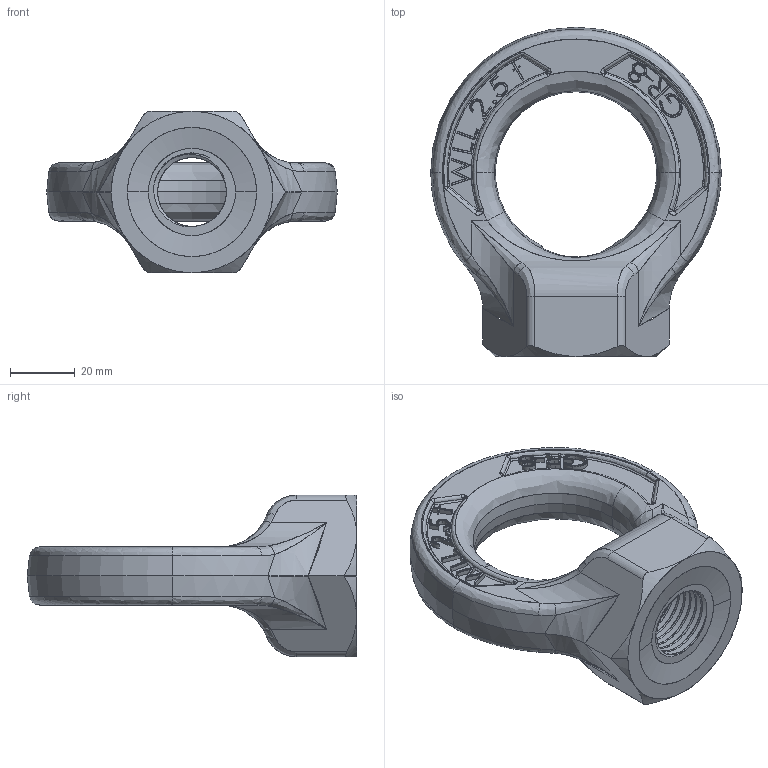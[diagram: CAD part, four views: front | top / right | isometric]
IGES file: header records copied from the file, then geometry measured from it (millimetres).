
Start section: SolidWorks IGES file using analytic representation for surfaces
Global section: file name: C:\Users\Brenton\Documents\Townley\HTEN\HTEN24\HTEN24.IGS; native system: SolidWorks 2012; preprocessor: SolidWorks 2012; author: Brenton; date: 150310.121756; units: millimetre
Bounding box: 90 x 102 x 50 mm (x, y, z)
Surface area: 24280.8 mm2 (no closed solid volume)
Topology: 0 solids, 0 shells, 788 faces, 8720 edges, 8681 vertices
Faces by surface type: bspline 508, revolution 280
